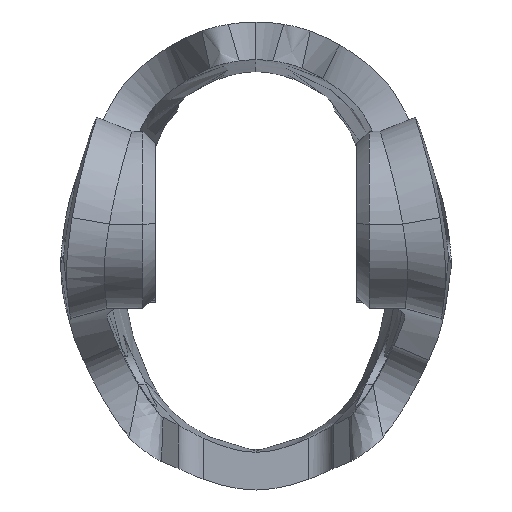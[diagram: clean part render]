
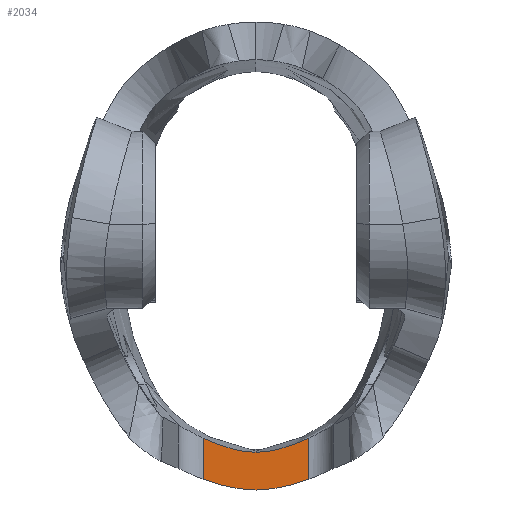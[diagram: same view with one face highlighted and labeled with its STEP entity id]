
A CAD part, top view. The second image highlights one B-rep face of the part: STEP entity #2034.
In plain terms, the highlighted planar face has unit normal (0, 0, 1).
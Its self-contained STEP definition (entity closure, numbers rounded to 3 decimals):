
#17=PLANE('',#2151);
#199=FACE_OUTER_BOUND('',#320,.T.);
#320=EDGE_LOOP('',(#1622,#1623,#1624,#1625,#1626,#1627));
#428=LINE('',#10882,#503);
#429=LINE('',#10889,#504);
#503=VECTOR('',#2286,1000.);
#504=VECTOR('',#2287,1000.);
#562=B_SPLINE_CURVE_WITH_KNOTS('',3,(#4616,#4617,#4618,#4619,#4620,#4621),
 .UNSPECIFIED.,.F.,.F.,(4,2,4),(0.,0.071,
0.122),.UNSPECIFIED.);
#597=B_SPLINE_CURVE_WITH_KNOTS('',3,(#5806,#5807,#5808,#5809,#5810,#5811),
 .UNSPECIFIED.,.F.,.F.,(4,2,4),(0.,0.108,0.216),
 .UNSPECIFIED.);
#660=B_SPLINE_CURVE_WITH_KNOTS('',3,(#10875,#10876,#10877,#10878,#10879,
#10880),.UNSPECIFIED.,.F.,.F.,(4,2,4),(-0.259,-0.109,
0.),.UNSPECIFIED.);
#661=B_SPLINE_CURVE_WITH_KNOTS('',3,(#10883,#10884,#10885,#10886,#10887,
#10888),.UNSPECIFIED.,.F.,.F.,(4,2,4),(0.,0.108,0.216),
 .UNSPECIFIED.);
#816=VERTEX_POINT('',#4613);
#817=VERTEX_POINT('',#4615);
#851=VERTEX_POINT('',#5792);
#852=VERTEX_POINT('',#5805);
#898=VERTEX_POINT('',#10874);
#899=VERTEX_POINT('',#10881);
#1033=EDGE_CURVE('',#816,#817,#562,.T.);
#1071=EDGE_CURVE('',#852,#851,#597,.T.);
#1163=EDGE_CURVE('',#816,#898,#660,.T.);
#1164=EDGE_CURVE('',#899,#898,#428,.T.);
#1165=EDGE_CURVE('',#852,#899,#661,.T.);
#1166=EDGE_CURVE('',#851,#817,#429,.T.);
#1622=ORIENTED_EDGE('',*,*,#1033,.F.);
#1623=ORIENTED_EDGE('',*,*,#1163,.T.);
#1624=ORIENTED_EDGE('',*,*,#1164,.F.);
#1625=ORIENTED_EDGE('',*,*,#1165,.F.);
#1626=ORIENTED_EDGE('',*,*,#1071,.T.);
#1627=ORIENTED_EDGE('',*,*,#1166,.T.);
#2034=ADVANCED_FACE('',(#199),#17,.F.);
#2151=AXIS2_PLACEMENT_3D('',#10873,#2284,#2285);
#2284=DIRECTION('center_axis',(0.,0.,-1.));
#2285=DIRECTION('ref_axis',(-1.,0.,0.));
#2286=DIRECTION('',(0.,1.,0.));
#2287=DIRECTION('',(0.,1.,0.));
#4613=CARTESIAN_POINT('',(0.,-7.285,-20.938));
#4615=CARTESIAN_POINT('',(2.106,-6.724,-20.938));
#4616=CARTESIAN_POINT('Ctrl Pts',(0.,-7.285,
-20.938));
#4617=CARTESIAN_POINT('Ctrl Pts',(0.236,-7.285,-20.938));
#4618=CARTESIAN_POINT('Ctrl Pts',(0.59,-7.259,-20.938));
#4619=CARTESIAN_POINT('Ctrl Pts',(1.431,-7.019,-20.938));
#4620=CARTESIAN_POINT('Ctrl Pts',(1.779,-6.88,-20.938));
#4621=CARTESIAN_POINT('Ctrl Pts',(2.106,-6.724,-20.938));
#5792=CARTESIAN_POINT('',(2.106,-8.356,-20.938));
#5805=CARTESIAN_POINT('',(0.,-8.786,-20.938));
#5806=CARTESIAN_POINT('Ctrl Pts',(0.,-8.786,
-20.938));
#5807=CARTESIAN_POINT('Ctrl Pts',(0.361,-8.786,-20.938));
#5808=CARTESIAN_POINT('Ctrl Pts',(0.717,-8.743,-20.938));
#5809=CARTESIAN_POINT('Ctrl Pts',(1.421,-8.592,-20.938));
#5810=CARTESIAN_POINT('Ctrl Pts',(1.768,-8.486,-20.938));
#5811=CARTESIAN_POINT('Ctrl Pts',(2.106,-8.356,-20.938));
#10873=CARTESIAN_POINT('Origin',(2.106,-10.,-20.938));
#10874=CARTESIAN_POINT('',(-2.106,-6.724,-20.938));
#10875=CARTESIAN_POINT('Ctrl Pts',(0.,-7.285,
-20.938));
#10876=CARTESIAN_POINT('Ctrl Pts',(-0.236,-7.285,
-20.938));
#10877=CARTESIAN_POINT('Ctrl Pts',(-0.59,-7.259,
-20.938));
#10878=CARTESIAN_POINT('Ctrl Pts',(-1.431,-7.019,
-20.938));
#10879=CARTESIAN_POINT('Ctrl Pts',(-1.779,-6.88,
-20.938));
#10880=CARTESIAN_POINT('Ctrl Pts',(-2.106,-6.724,
-20.938));
#10881=CARTESIAN_POINT('',(-2.106,-8.356,-20.938));
#10882=CARTESIAN_POINT('',(-2.106,-10.,-20.938));
#10883=CARTESIAN_POINT('Ctrl Pts',(0.,-8.786,
-20.938));
#10884=CARTESIAN_POINT('Ctrl Pts',(-0.361,-8.786,
-20.938));
#10885=CARTESIAN_POINT('Ctrl Pts',(-0.717,-8.743,
-20.938));
#10886=CARTESIAN_POINT('Ctrl Pts',(-1.421,-8.592,
-20.938));
#10887=CARTESIAN_POINT('Ctrl Pts',(-1.768,-8.486,
-20.938));
#10888=CARTESIAN_POINT('Ctrl Pts',(-2.106,-8.356,
-20.938));
#10889=CARTESIAN_POINT('',(2.106,-10.,-20.938));
